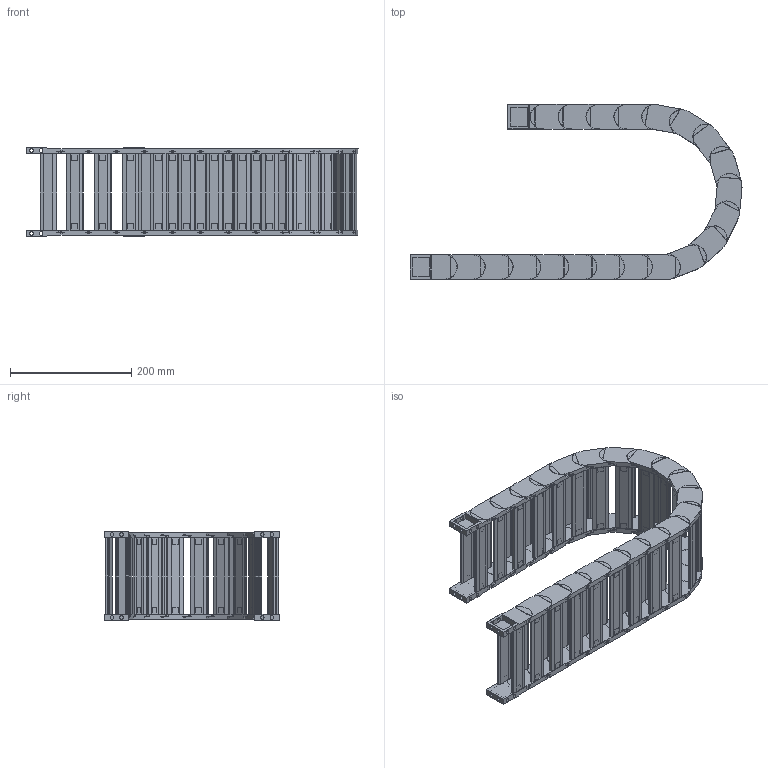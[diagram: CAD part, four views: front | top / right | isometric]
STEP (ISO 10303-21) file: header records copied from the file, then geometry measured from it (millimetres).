
FILE_DESCRIPTION((''),'2;1');
FILE_NAME('HD25-R125-ZPT_ASM','2022-09-04T16:07:44',('admin'),(''),'CREO PARAMETRIC BY PTC INC, 2021164','CREO PARAMETRIC BY PTC INC, 2021164','');
FILE_SCHEMA(('CONFIG_CONTROL_DESIGN','GEOMETRIC_VALIDATION_PROPERTIES_MIM'));
Length unit declared in the file: millimetre
Products named in the file (6): HD30; 25XL-QSYP-103; HD25_ASM; H25-T1; H25-T2; HD25-R125-ZPT_ASM
Assembly tree (26 placements, depth 3):
  HD25-R125-ZPT_ASM
    HD25_ASM  x20
      HD30
      25XL-QSYP-103
    H25-T1
    H25-T2
    25XL-QSYP-103  x2
Bounding box: 547.7 x 288.94 x 146.2 mm (x, y, z)
Volume: 1430539.1 mm3; surface area: 739426.9 mm2
Topology: 88 solids, 128 shells, 2226 faces, 5635 edges, 3757 vertices
Faces by surface type: plane 1666, cylinder 480, torus 80
Entity records: 10781 total; most frequent: CARTESIAN_POINT 1530, DIRECTION 1476, ORIENTED_EDGE 1406, EDGE_CURVE 703, VECTOR 522, LINE 522, AXIS2_PLACEMENT_3D 477, VERTEX_POINT 469
